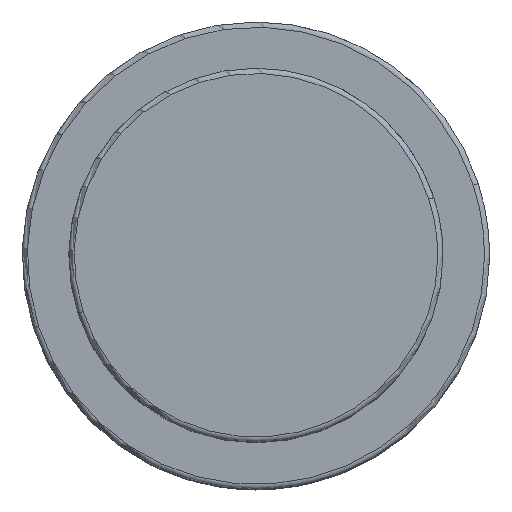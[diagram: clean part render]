
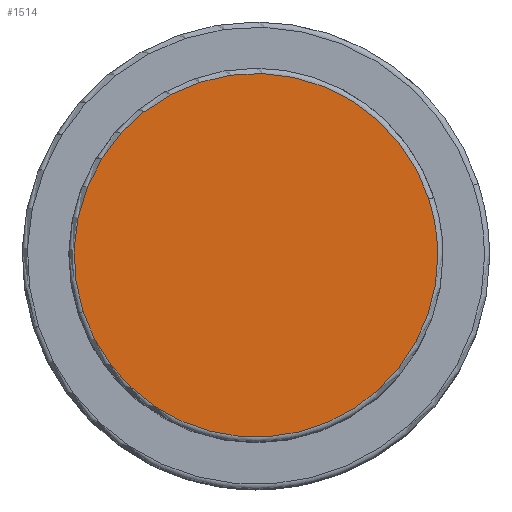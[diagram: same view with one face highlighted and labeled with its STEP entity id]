
A CAD part, top view. The second image highlights one B-rep face of the part: STEP entity #1514.
In plain terms, the highlighted planar face has unit normal (0, 0, 1).
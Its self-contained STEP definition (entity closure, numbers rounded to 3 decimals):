
#1447=CARTESIAN_POINT('',(16.643,5.408,53.0));
#1448=VERTEX_POINT('',#1447);
#1466=CARTESIAN_POINT('',(-16.643,-5.408,53.0));
#1467=VERTEX_POINT('',#1466);
#1475=CARTESIAN_POINT('',(0.0,0.0,53.0));
#1476=DIRECTION('',(0.0,0.0,1.0));
#1477=DIRECTION('',(1.0,0.0,0.0));
#1478=AXIS2_PLACEMENT_3D('',#1475,#1476,#1477);
#1479=CIRCLE('',#1478,17.5);
#1480=EDGE_CURVE('no 1648',#1448,#1467,#1479,.T.);
#1490=CARTESIAN_POINT('',(17.5,0.0,53.0));
#1491=VERTEX_POINT('',#1490);
#1492=CARTESIAN_POINT('',(0.0,0.0,53.0));
#1493=DIRECTION('',(0.0,0.0,1.0));
#1494=DIRECTION('',(1.0,0.0,0.0));
#1495=AXIS2_PLACEMENT_3D('',#1492,#1493,#1494);
#1496=CIRCLE('',#1495,17.5);
#1497=EDGE_CURVE('no 1657',#1491,#1448,#1496,.T.);
#1498=ORIENTED_EDGE('',*,*,#1497,.T.);
#1499=ORIENTED_EDGE('',*,*,#1480,.T.);
#1500=CARTESIAN_POINT('',(0.0,0.0,53.0));
#1501=DIRECTION('',(0.0,0.0,1.0));
#1502=DIRECTION('',(1.0,0.0,0.0));
#1503=AXIS2_PLACEMENT_3D('',#1500,#1501,#1502);
#1504=CIRCLE('',#1503,17.5);
#1505=EDGE_CURVE('no 1663',#1467,#1491,#1504,.T.);
#1506=ORIENTED_EDGE('',*,*,#1505,.T.);
#1507=EDGE_LOOP('',(#1498,#1499,#1506));
#1508=FACE_OUTER_BOUND('',#1507,.T.);
#1509=CARTESIAN_POINT('',(0.0,0.0,53.0));
#1510=DIRECTION('',(0.0,0.0,1.0));
#1511=DIRECTION('',(1.0,0.0,0.0));
#1512=AXIS2_PLACEMENT_3D('',#1509,#1510,#1511);
#1513=PLANE('',#1512);
#1514=ADVANCED_FACE('no 1650',(#1508),#1513,.T.);
